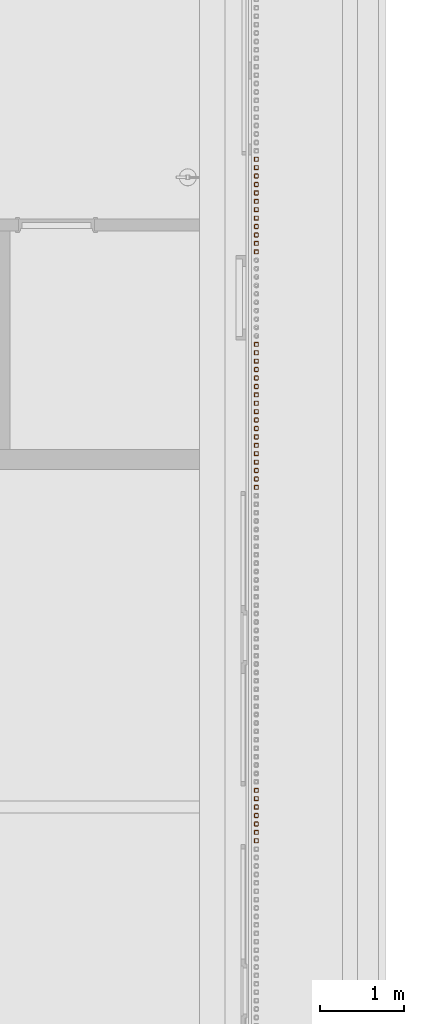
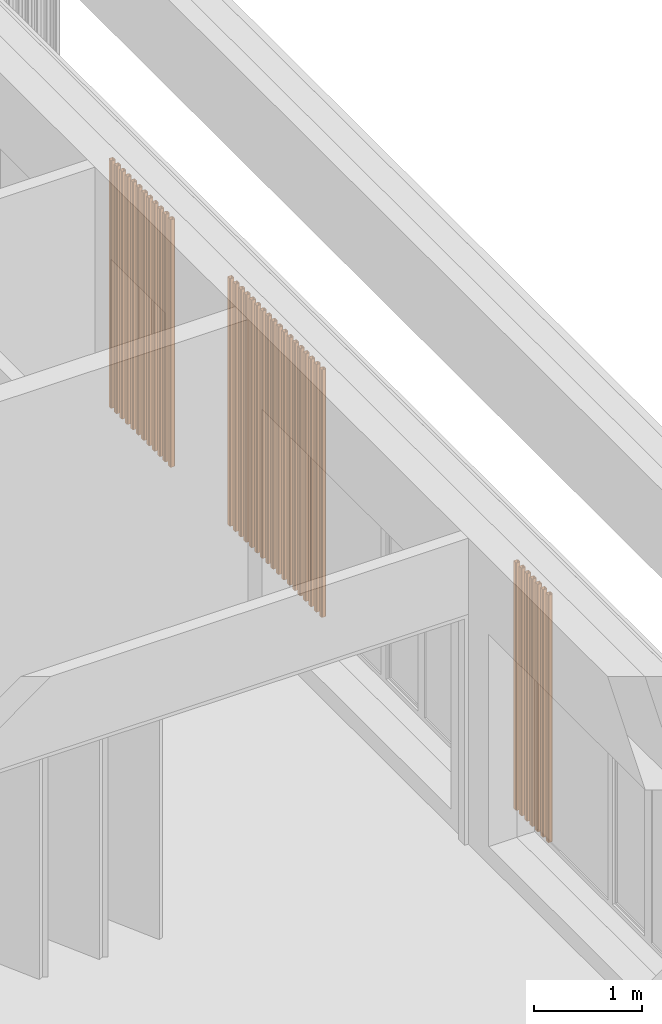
# One storey, part 68 of 112: 37 proxies.
"""IFC2X3 building model written with IfcOpenShell, lengths in millimetres."""

from ifc_helpers import new_model, entity, si_unit, converted_unit, derived_unit, money_unit, direction, frame, origin_with_axes, place, context, subcontext, project, spatial, faceted_brep, source, transform, mapped, material, type_object, element, save


model = new_model("IFC2X3")

# Units and contexts
model_context = context("Model", 3, precision=0.01, world=origin_with_axes(), true_north=direction((0.0, 1.0)))
body_context = subcontext(model_context, "Body", "Model", "MODEL_VIEW")
ifc_project = project(units=[si_unit("LENGTHUNIT", "METRE", prefix="MILLI"), si_unit("AREAUNIT", "SQUARE_METRE"), si_unit("VOLUMEUNIT", "CUBIC_METRE"), converted_unit("PLANEANGLEUNIT", "DEGREE", entity("IfcPlaneAngleMeasure", 0.0174532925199), si_unit("PLANEANGLEUNIT", "RADIAN"), dimensions=[0, 0, 0, 0, 0, 0, 0]), si_unit("SOLIDANGLEUNIT", "STERADIAN"), money_unit("EUR"), converted_unit("TIMEUNIT", "Year", entity("IfcTimeMeasure", 31556926.0), si_unit("TIMEUNIT", "SECOND"), dimensions=[0, 0, 1, 0, 0, 0, 0]), si_unit("MASSUNIT", "GRAM", prefix="KILO"), si_unit("THERMODYNAMICTEMPERATUREUNIT", "DEGREE_CELSIUS"), si_unit("LUMINOUSINTENSITYUNIT", "LUMEN"), si_unit("ENERGYUNIT", "JOULE", prefix="MEGA"), derived_unit("THERMALCONDUCTANCEUNIT", [(si_unit("POWERUNIT", "WATT"), 1), (si_unit("LENGTHUNIT", "METRE"), -1), (si_unit("THERMODYNAMICTEMPERATUREUNIT", "KELVIN"), -1)]), derived_unit("SPECIFICHEATCAPACITYUNIT", [(si_unit("ENERGYUNIT", "JOULE"), 1), (si_unit("MASSUNIT", "GRAM", prefix="KILO"), -1), (si_unit("THERMODYNAMICTEMPERATUREUNIT", "KELVIN"), -1)]), derived_unit("MASSDENSITYUNIT", [(si_unit("MASSUNIT", "GRAM", prefix="KILO"), 1), (si_unit("VOLUMEUNIT", "CUBIC_METRE"), -1)])], contexts=[model_context])

# Site, building, storey
site_placement = place(None, origin_with_axes())
site = spatial("IfcSite", under=ifc_project, at=site_placement, Name="Politse- ja Piirivalveameti ning Päästeameti ühishoone", CompositionType="ELEMENT")
building_placement = place(site_placement, origin_with_axes())
building = spatial("IfcBuilding", under=site, at=building_placement, Name="Politse- ja Piirivalveameti ning Päästeameti ühishoone", CompositionType="ELEMENT")
storey_placement = place(building_placement, origin_with_axes())
storey = spatial("IfcBuildingStorey", under=building, at=storey_placement, Name="Esimene korrus", CompositionType="ELEMENT", Elevation=0.0)

# Proxies
ifc_material = material(Name="ET-05_Teras")
building_element_proxy_type = type_object("IfcBuildingElementProxyType", Name="SHS Cold-Formed Column 23", PredefinedType="NOTDEFINED")
shared_shape = source(origin_with_axes(), body_context, "Body", "Brep", [
    faceted_brep([(-17.0, -25.0, 0.0), (17.0, -25.0, 0.0), (17.0, -25.0, 2800.0), (-17.0, -25.0, 2800.0), (-22.6568542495, -22.6568542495, 0.0), (-25.0, -17.0, 0.0), (-25.0, 17.0, 0.0), (-22.6568542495, 22.6568542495, 0.0), (-17.0, 25.0, 0.0), (17.0, 25.0, 0.0), (22.6568542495, 22.6568542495, 0.0), (25.0, 17.0, 0.0), (25.0, -17.0, 0.0), (22.6568542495, -22.6568542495, 0.0), (-17.0, -21.0, 0.0), (17.0, -21.0, 0.0), (19.8284271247, -19.8284271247, 0.0), (21.0, -17.0, 0.0), (21.0, 17.0, 0.0), (19.8284271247, 19.8284271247, 0.0), (17.0, 21.0, 0.0), (-17.0, 21.0, 0.0), (-19.8284271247, 19.8284271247, 0.0), (-21.0, 17.0, 0.0), (-21.0, -17.0, 0.0), (-19.8284271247, -19.8284271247, 0.0), (22.6568542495, -22.6568542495, 2800.0), (25.0, -17.0, 2800.0), (25.0, 17.0, 2800.0), (22.6568542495, 22.6568542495, 2800.0), (17.0, 25.0, 2800.0), (-17.0, 25.0, 2800.0), (-22.6568542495, 22.6568542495, 2800.0), (-25.0, 17.0, 2800.0), (-25.0, -17.0, 2800.0), (-22.6568542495, -22.6568542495, 2800.0), (-17.0, -21.0, 2800.0), (-19.8284271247, -19.8284271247, 2800.0), (-21.0, -17.0, 2800.0), (-21.0, 17.0, 2800.0), (-19.8284271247, 19.8284271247, 2800.0), (-17.0, 21.0, 2800.0), (17.0, 21.0, 2800.0), (19.8284271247, 19.8284271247, 2800.0), (21.0, 17.0, 2800.0), (21.0, -17.0, 2800.0), (19.8284271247, -19.8284271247, 2800.0), (17.0, -21.0, 2800.0)], [[[0, 1, 2, 3]], [[0, 4, 5, 6, 7, 8, 9, 10, 11, 12, 13, 1], [14, 15, 16, 17, 18, 19, 20, 21, 22, 23, 24, 25]], [[1, 13, 26, 2]], [[3, 2, 26, 27, 28, 29, 30, 31, 32, 33, 34, 35], [36, 37, 38, 39, 40, 41, 42, 43, 44, 45, 46, 47]], [[4, 0, 3, 35]], [[5, 4, 35, 34]], [[6, 5, 34, 33]], [[7, 6, 33, 32]], [[8, 7, 32, 31]], [[9, 8, 31, 30]], [[10, 9, 30, 29]], [[11, 10, 29, 28]], [[12, 11, 28, 27]], [[13, 12, 27, 26]], [[15, 14, 36, 47]], [[16, 15, 47, 46]], [[17, 16, 46, 45]], [[18, 17, 45, 44]], [[19, 18, 44, 43]], [[20, 19, 43, 42]], [[21, 20, 42, 41]], [[22, 21, 41, 40]], [[23, 22, 40, 39]], [[24, 23, 39, 38]], [[25, 24, 38, 37]], [[14, 25, 37, 36]]]),
])
for number, where, z_axis, x_axis in (
    (1, (68635.2095212, 11950.0702441, 0.0), (0.0, 0.0, 1.0), (1.0, 0.0, 0.0)),
    (2, (68635.2095212, 11850.0702441, 0.0), (0.0, 0.0, 1.0), (1.0, 0.0, 0.0)),
    (3, (68635.2095212, 11750.0702441, 0.0), (0.0, 0.0, 1.0), (1.0, 0.0, 0.0)),
    (4, (68635.2095212, 11650.0702441, 0.0), (0.0, 0.0, 1.0), (1.0, 0.0, 0.0)),
    (5, (68635.2095212, 11550.0702441, 0.0), (0.0, 0.0, 1.0), (1.0, 0.0, 0.0)),
    (6, (68635.2095212, 11450.0702441, 0.0), (0.0, 0.0, 1.0), (1.0, 0.0, 0.0)),
    (7, (68635.2095212, 11350.0702441, 0.0), (0.0, 0.0, 1.0), (1.0, 0.0, 0.0)),
    (8, (68635.2095212, 11250.0702441, 0.0), (0.0, 0.0, 1.0), (1.0, 0.0, 0.0)),
    (9, (68635.2095212, 11150.0702441, 0.0), (0.0, 0.0, 1.0), (1.0, 0.0, 0.0)),
    (10, (68635.2095212, 11050.0702441, 0.0), (0.0, 0.0, 1.0), (1.0, 0.0, 0.0)),
    (11, (68635.2095212, 10950.0702441, 0.0), (0.0, 0.0, 1.0), (1.0, 0.0, 0.0)),
    (12, (68635.2095212, 10850.0702441, 0.0), (0.0, 0.0, 1.0), (1.0, 0.0, 0.0)),
    (13, (68635.2095212, 9750.07024411, 0.0), (0.0, 0.0, 1.0), (1.0, 0.0, 0.0)),
    (14, (68635.2095212, 9650.07024411, 0.0), (0.0, 0.0, 1.0), (1.0, 0.0, 0.0)),
    (15, (68635.2095212, 9550.07024411, 0.0), (0.0, 0.0, 1.0), (1.0, 0.0, 0.0)),
    (16, (68635.2095212, 9450.07024411, 0.0), (0.0, 0.0, 1.0), (1.0, 0.0, 0.0)),
    (17, (68635.2095212, 9350.07024411, 0.0), (0.0, 0.0, 1.0), (1.0, 0.0, 0.0)),
    (18, (68635.2095212, 9250.07024411, 0.0), (0.0, 0.0, 1.0), (1.0, 0.0, 0.0)),
    (19, (68635.2095212, 9150.07024411, 0.0), (0.0, 0.0, 1.0), (1.0, 0.0, 0.0)),
    (20, (68635.2095212, 9050.07024411, 0.0), (0.0, 0.0, 1.0), (1.0, 0.0, 0.0)),
    (21, (68635.2095212, 8950.07024411, 0.0), (0.0, 0.0, 1.0), (1.0, 0.0, 0.0)),
    (22, (68635.2095212, 8850.07024411, 0.0), (0.0, 0.0, 1.0), (1.0, 0.0, 0.0)),
    (23, (68635.2095212, 8750.07024411, 0.0), (0.0, 0.0, 1.0), (1.0, 0.0, 0.0)),
    (24, (68635.2095212, 8650.07024411, 0.0), (0.0, 0.0, 1.0), (1.0, 0.0, 0.0)),
    (25, (68635.2095212, 8550.07024411, 0.0), (0.0, 0.0, 1.0), (1.0, 0.0, 0.0)),
    (26, (68635.2095212, 8450.07024411, 0.0), (0.0, 0.0, 1.0), (1.0, 0.0, 0.0)),
    (27, (68635.2095212, 8350.07024411, 0.0), (0.0, 0.0, 1.0), (1.0, 0.0, 0.0)),
    (28, (68635.2095212, 8250.07024411, 0.0), (0.0, 0.0, 1.0), (1.0, 0.0, 0.0)),
    (29, (68635.2095212, 8150.07024411, 0.0), (0.0, 0.0, 1.0), (1.0, 0.0, 0.0)),
    (30, (68635.2095212, 8050.07024411, 0.0), (0.0, 0.0, 1.0), (1.0, 0.0, 0.0)),
    (31, (68635.2095212, 4450.07024411, 0.0), (0.0, 0.0, 1.0), (1.0, 0.0, 0.0)),
    (32, (68635.2095212, 4350.07024411, 0.0), (0.0, 0.0, 1.0), (1.0, 0.0, 0.0)),
    (33, (68635.2095212, 4250.07024411, 0.0), (0.0, 0.0, 1.0), (1.0, 0.0, 0.0)),
    (34, (68635.2095212, 4150.07024411, 0.0), (0.0, 0.0, 1.0), (1.0, 0.0, 0.0)),
    (35, (68635.2095212, 4050.07024411, 0.0), (0.0, 0.0, 1.0), (1.0, 0.0, 0.0)),
    (36, (68635.2095212, 3950.07024411, 0.0), (0.0, 0.0, 1.0), (1.0, 0.0, 0.0)),
    (37, (68635.2095212, 3850.07024411, 0.0), (0.0, 0.0, 1.0), (1.0, 0.0, 0.0)),
):
    element("IfcBuildingElementProxy", number, at=place(storey_placement, frame(where, z_axis=z_axis, x_axis=x_axis)), inside=storey, type_object=building_element_proxy_type, material=ifc_material, Name="Fassaadiribid", context=body_context, shape_type="MappedRepresentation", body=[
        mapped(shared_shape, transform((0.0, 0.0, 0.0))),
    ])

save(model, "model.ifc")
